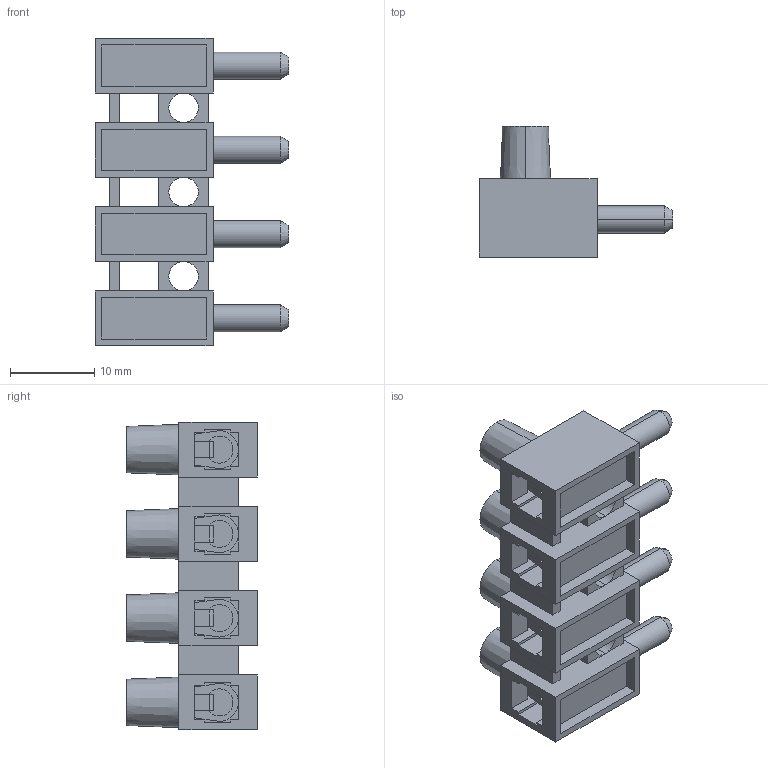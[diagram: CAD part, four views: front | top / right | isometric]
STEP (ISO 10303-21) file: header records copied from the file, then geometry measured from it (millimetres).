
FILE_DESCRIPTION (( 'STEP AP214' ), '1' );
FILE_NAME ('322-STFS-DS-04.STEP', '2008-04-15T02:01:29', ( ' ' ), ( '' ), 'SwSTEP 2.0', 'SolidWorks 2007', '' );
FILE_SCHEMA (( 'AUTOMOTIVE_DESIGN' ));
Length unit declared in the file: millimetre
Products named in the file (1): 322-STFS-DS-04
Bounding box: 23 x 15.5 x 36.5 mm (x, y, z)
Volume: 3651.5 mm3; surface area: 4534.5 mm2
Topology: 1 solids, 1 shells, 472 faces, 1344 edges, 884 vertices
Faces by surface type: plane 302, cylinder 114, cone 36, bspline 20
Entity records: 16639 total; most frequent: CARTESIAN_POINT 4165, ORIENTED_EDGE 2688, DIRECTION 2506, EDGE_CURVE 1344, VECTOR 920, LINE 920, VERTEX_POINT 884, AXIS2_PLACEMENT_3D 793
